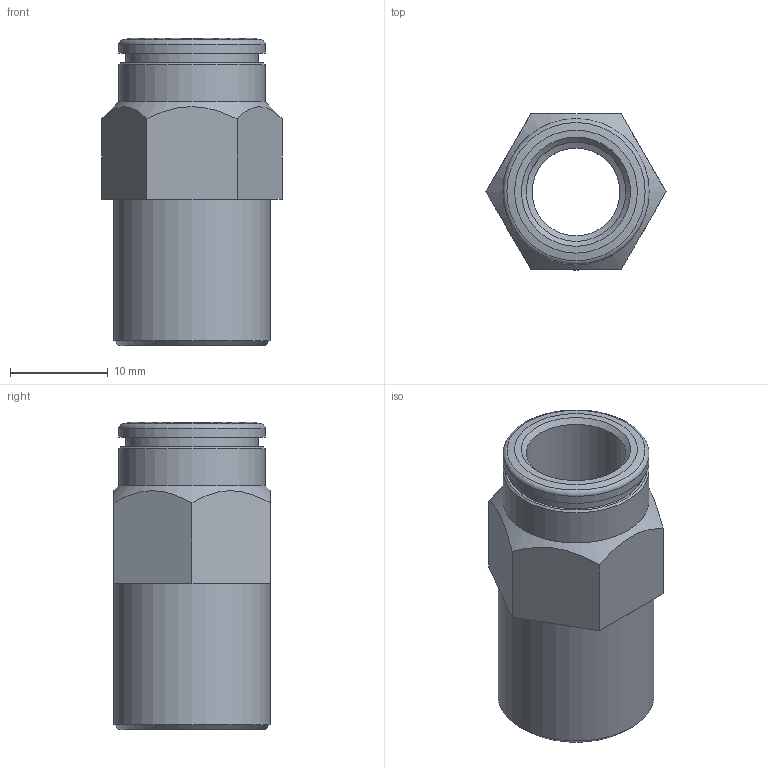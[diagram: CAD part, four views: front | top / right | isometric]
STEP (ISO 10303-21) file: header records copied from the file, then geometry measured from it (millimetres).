
FILE_DESCRIPTION(('Bauteilbeschreibung','HiCAD-Model','HiCAD-STEP-TRANSLATION','Bauteilbeschreibung'),'2;1');
FILE_NAME('B:/ABGLEICH/ZEICHNUNGEN/STEP FÜR INTERNET/STEP/200209_IPSO_02_10_1-4.STP','2011-07-15T11:40:16+00:00',('Konstrukteur'),('Konstrukteur Firma GmbH'),' HiCAD neXt 2008, Step 3.1.1401.2J ','HiCAD neXt 2008','confidential');
FILE_SCHEMA(('AUTOMOTIVE_DESIGN { 1 2 10303 214 0 1 1 1 }'));
Length unit declared in the file: millimetre
Products named in the file (5): A00209_IPSO_02_10_1_4; DR10_N; R200209_N; R2002090N; G 1_4
Assembly tree (4 placements, depth 3):
  A00209_IPSO_02_10_1_4
    DR10_N
    R200209_N
    R2002090N
      G 1_4
Bounding box: 18.48 x 16 x 31.5 mm (x, y, z)
Volume: 3202.3 mm3; surface area: 4506.2 mm2
Topology: 3 solids, 3 shells, 49 faces, 102 edges, 62 vertices
Faces by surface type: plane 21, cylinder 14, cone 13, torus 1
Full cylindrical faces by diameter (mm): 9 x1, 10.2 x2, 11.445 x2, 12.3 x1, 13 x1, 13.157 x2, 13.6 x1, 13.7 x1, 15 x2, 16 x1
Entity records: 1546 total; most frequent: DIRECTION 216, CARTESIAN_POINT 189, ORIENTED_EDGE 132, AXIS2_PLACEMENT_3D 99, EDGE_LOOP 86, COLOUR_RGB 69, PRESENTATION_STYLE_ASSIGNMENT 69, CURVE_STYLE 66
